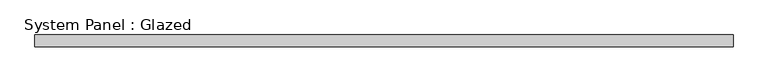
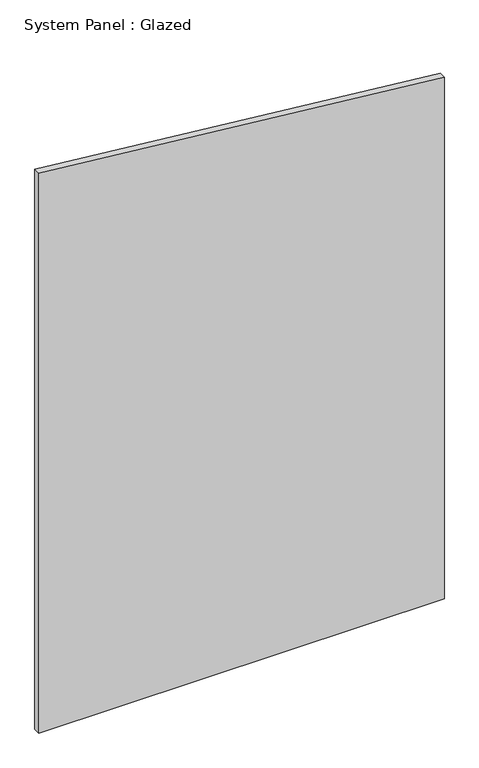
"""IFC4 building model written with IfcOpenShell, lengths in millimetres: plate geometry, System Panel : Glazed."""

from ifc_helpers import new_model, si_unit, frame, origin, place, context, project, spatial, polyline, outline, extrude, source, transform, mapped, element, save


def system_panel_glazed_f624661f(model_context):
    return source(origin(), model_context, "Body", "SweptSolid", [
        extrude(outline(polyline([(0.0, -735.8695652), (0.0, 735.8695652), (1999.5127936, 735.8695652), (2147.4957723, -735.8695652), (0.0, -735.8695652)])), frame((0.0, 24.5, 0.0), z_axis=(0.0, 1.0, 0.0), x_axis=(0.0, 0.0, 1.0)), (0.0, 0.0, 1.0), 25.0),
    ])


if __name__ == "__main__":
    model = new_model("IFC4")
    model_context = context("Model", 3, world=origin())
    ifc_project = project(units=[si_unit("LENGTHUNIT", "METRE", prefix="MILLI")], contexts=[model_context])
    site = spatial("IfcSite", under=ifc_project)
    building = spatial("IfcBuilding", under=site)
    placement = place(None, origin())
    system_panel_glazed_shape = system_panel_glazed_f624661f(model_context)
    element("IfcPlate", 1, ObjectType="System Panel : Glazed", at=placement, inside=building, context=model_context, shape_type="MappedRepresentation", body=[
        mapped(system_panel_glazed_shape, transform((0.0, 0.0, 0.0), x_axis=(1.0, 0.0, 0.0), y_axis=(0.0, 1.0, 0.0), z_axis=(0.0, 0.0, 1.0))),
    ])
    save(model, "model.ifc")
